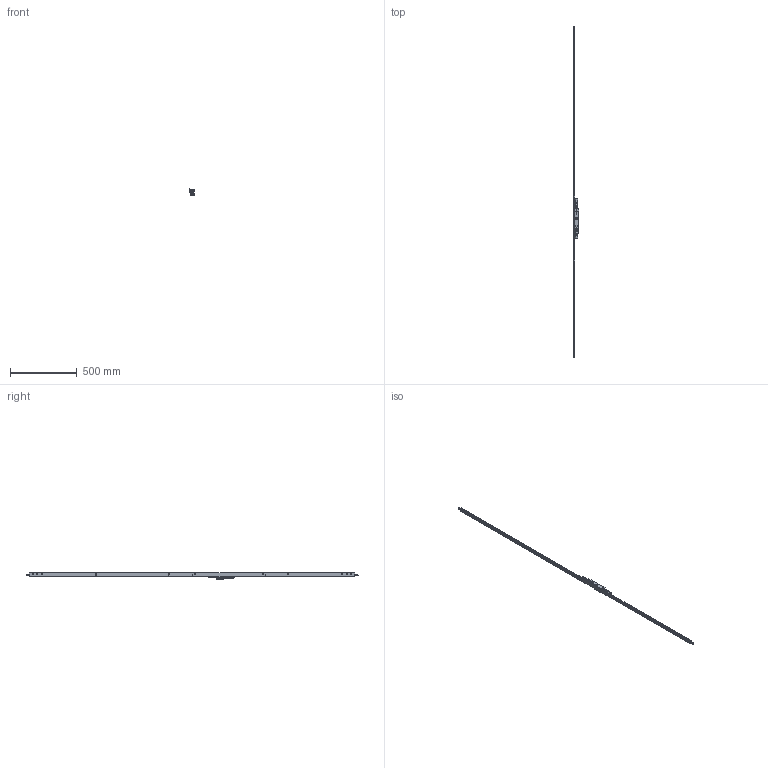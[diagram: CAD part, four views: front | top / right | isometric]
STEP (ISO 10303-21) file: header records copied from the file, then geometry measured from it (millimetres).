
FILE_DESCRIPTION (( 'STEP AP214' ), '1' );
FILE_NAME ('TPL-W-EU-601-L 06Nov2024.STEP', '2024-11-27T00:55:46', ( '' ), ( '' ), 'SwSTEP 2.0', 'SolidWorks 2023', '' );
FILE_SCHEMA (( 'AUTOMOTIVE_DESIGN' ));
Length unit declared in the file: millimetre
Products named in the file (18): Copy of LKC-585 Rotator body zinc^Copy of TPGen2 handle non-keyed short zinc - simplified_TPL-W-EU-101 04Nov2024; Copy of LKC-531-A Rod TPLGen2 machined bolt end^TPL-W-EU-101 04Nov2024_LKC-531-A-M003; Copy of LKC-584 Pivot body zinc - simplified^Copy of TPGen2 handle non-keyed short zinc - simplified_TPL-W-EU-101 04Nov2024; TPL-W-EU-601-L 06Nov2024; Bolt.step; Copy of LKC-516 Escutcheon plate unkeyed 195mm long zinc - simplified^Copy of TPGen2 handle non-keyed short zinc - simplified_TPL-W-EU-101 04Nov2024; COV-112-A Cover A suit TPLGen2 standard range^TPL-W-EU-101 04Nov2024_2870mm; Copy of LKC-505 Swing handle zinc - simplified^Copy of TPGen2 handle non-keyed short zinc - simplified_TPL-W-EU-101 04Nov2024; Copy of TPLGen2 push rod - simplified^Copy of TPLGen2 lock body non-keyed assembly_TPL-W-EU-101 04Nov2024_Female thread M10; Copy of TPGen2 handle non-keyed short zinc - simplified^TPL-W-EU-101 04Nov2024_Vertical; Copy of LKC-586 Spindle square 8mm with M4 hole^Copy of TPGen2 handle non-keyed short zinc - simplified_TPL-W-EU-101 04Nov2024_25mm; COV-112-B Cover B suit TPLGen2 standard range^TPL-W-EU-101 04Nov2024_2870mm; Copy of Adapter CnE - simplfied^TPL-W-EU-101 04Nov2024_26mm backset; Copy of TPLGen2 lock body non-keyed^Copy of TPLGen2 lock body non-keyed assembly_TPL-W-EU-101 04Nov2024; Copy of Adapter DnF - simplfied^TPL-W-EU-101 04Nov2024_26mm backset; Copy of COV-112-C Cover C TPLGen2 Lock body^TPL-W-EU-101 04Nov2024; Bottom twinpoint transmission rod wood system^TPL-W-EU-101 04Nov2024_Standard Range 2891.7mm; Copy of TPLGen2 lock body non-keyed assembly^TPL-W-EU-101 04Nov2024_Bolts extended
Assembly tree (19 placements, depth 3):
  TPL-W-EU-601-L 06Nov2024
    Copy of TPLGen2 lock body non-keyed assembly^TPL-W-EU-101 04Nov2024_Bolts extended
      Copy of TPLGen2 lock body non-keyed^Copy of TPLGen2 lock body non-keyed assembly_TPL-W-EU-101 04Nov2024
      Copy of TPLGen2 push rod - simplified^Copy of TPLGen2 lock body non-keyed assembly_TPL-W-EU-101 04Nov2024_Female thread M10  x2
    Copy of TPGen2 handle non-keyed short zinc - simplified^TPL-W-EU-101 04Nov2024_Vertical
      Copy of LKC-516 Escutcheon plate unkeyed 195mm long zinc - simplified^Copy of TPGen2 handle non-keyed short zinc - simplified_TPL-W-EU-101 04Nov2024
      Copy of LKC-505 Swing handle zinc - simplified^Copy of TPGen2 handle non-keyed short zinc - simplified_TPL-W-EU-101 04Nov2024
      Copy of LKC-585 Rotator body zinc^Copy of TPGen2 handle non-keyed short zinc - simplified_TPL-W-EU-101 04Nov2024
      Copy of LKC-586 Spindle square 8mm with M4 hole^Copy of TPGen2 handle non-keyed short zinc - simplified_TPL-W-EU-101 04Nov2024_25mm
      Copy of LKC-584 Pivot body zinc - simplified^Copy of TPGen2 handle non-keyed short zinc - simplified_TPL-W-EU-101 04Nov2024
    Bolt.step  x2
    Copy of COV-112-C Cover C TPLGen2 Lock body^TPL-W-EU-101 04Nov2024
    COV-112-A Cover A suit TPLGen2 standard range^TPL-W-EU-101 04Nov2024_2870mm
    COV-112-B Cover B suit TPLGen2 standard range^TPL-W-EU-101 04Nov2024_2870mm
    Bottom twinpoint transmission rod wood system^TPL-W-EU-101 04Nov2024_Standard Range 2891.7mm
    Copy of LKC-531-A Rod TPLGen2 machined bolt end^TPL-W-EU-101 04Nov2024_LKC-531-A-M003
    Copy of Adapter DnF - simplfied^TPL-W-EU-101 04Nov2024_26mm backset
    Copy of Adapter CnE - simplfied^TPL-W-EU-101 04Nov2024_26mm backset
Bounding box: 43.5 x 2490 x 45.86 mm (x, y, z)
Volume: 522813 mm3; surface area: 376894.9 mm2
Topology: 17 solids, 17 shells, 1053 faces, 2725 edges, 1718 vertices
Faces by surface type: plane 403, cylinder 255, bspline 241, cone 96, torus 46, sphere 12
Entity records: 37388 total; most frequent: CARTESIAN_POINT 14312, ORIENTED_EDGE 5096, DIRECTION 4185, EDGE_CURVE 2548, VERTEX_POINT 1606, AXIS2_PLACEMENT_3D 1505, VECTOR 1175, LINE 1175
